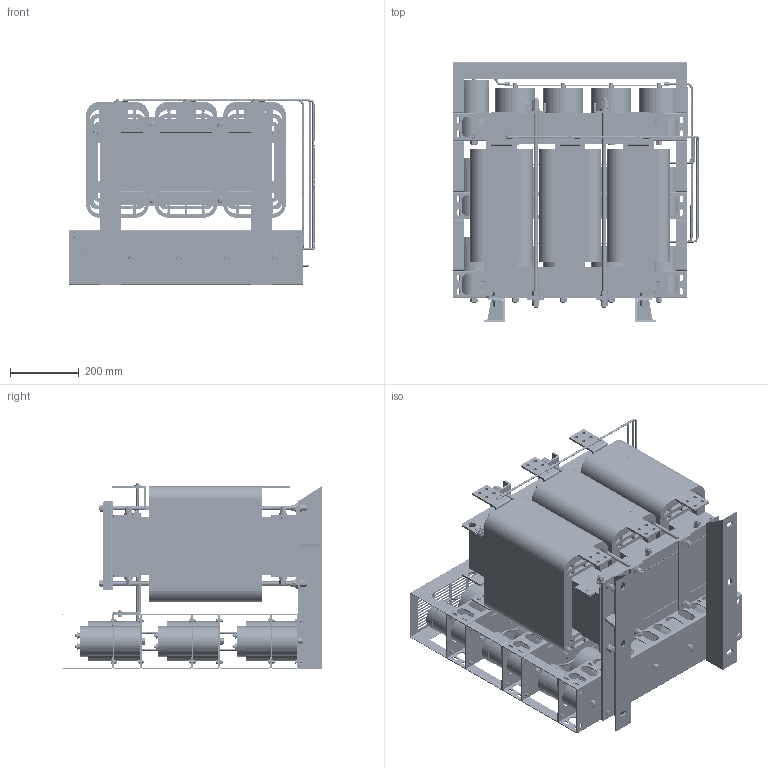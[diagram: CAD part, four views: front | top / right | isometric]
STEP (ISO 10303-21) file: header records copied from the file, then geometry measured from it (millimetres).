
FILE_DESCRIPTION(('STEP AP203'), '1');
FILE_NAME('蔓躅漤铋 耔眢耥 翳朦蝠 _ ISINOF-560_587-6', '', ('UNSPECIFIED'), ('UNSPECIFIED'), 'C3D Converter', 'C3D Toolkit', '');
FILE_SCHEMA(('CONFIG_CONTROL_DESIGN'));
Length unit declared in the file: millimetre
Products named in the file (60): ISINOF-560/587-6; LРНЦ吭X2\04560415\X0\; LРНЦ吭X2\04560415\X0\2; RNB14-6S; UРНС№Мх 60x30x6; 琵X2\04270405041504230422\X0\; 琵X2\04270405041504270443\X0\; 愧X2\0437\X0\琵X2\0410\X0\ іЕМх; №么X2\04270426041C0445\X0\12x10x310; ї琵X2\041E\X0\做зЧУKV223-2P; А降еМх90-540-2; А降еМх琵X2\0436\X0\豹X2\0435\X0\108-90-2; ЖЅ豹X2\043504560415\X0\豹X2\0435\X0\12x30x320; ЖЅ豹X2\043504560415\X0\豹X2\0435\X0\20x40x310; ИэПаМъРѕ490-540-166; ЙПјРјю-560ЎБ80ЎБ6; ПВјРјю-490ЎБ80ЎБ40; ПВјРјю-490ЎБ80ЎБ40 јУЅУ琵X2\042804570427\X0\; ПЯИ¦587A; С№豹X2\0435\X0\; plain washers--product grade c gb_GB_FASTENER_WASHER_SMWC 12; spring lock washers--normal type gb_GB_FASTENER_WASHER_SW 12; hexagon nuts grade c gb_GB_FASTENER_NUT_SNC1 M12-N; M12X225; hexagon head bolts-full thread gb_GB_FASTENER_BOLT_STBAB A M12X35-N; M12x610; 吒X2\0425\X0\116-150; 吒X2\0425\X0\86-175; ДЪДёЕЕ60x6; НвДёЕЕ60x6; 琵X2\04370418042D0451041704270423\X0\; 琵X2\04370418042D0426\X0\吭X2\0458042C\X0\; ФІРНВг跚X2\041B04270423\X0\; Ц吭X2\045604150426\X0\吭X2\0458042C\X0\; Б枯X2\0405042304150415\X0\; plain washers--product grade c gb_GB_FASTENER_WASHER_SMWC 6; hexagon head bolts-full thread gb_GB_FASTENER_BOLT_STBAB A M6X16-N; Cable_1-ХэПТІЁВЛІЁЖчSKS-SF-0587-6AЈЇ05; 琵X2\043704100412\X0\^Cable_1-ХэПТІЁВЛІЁЖчSKS-SF-0587-6AЈЇ05; Cable_4-ХэПТІЁВЛІЁЖчSKS-SF-0587-6AЈЇ05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
Assembly tree (420 placements, depth 3):
  ISINOF-560/587-6
    LРНЦ吭X2\04560415\X0\  x3
    LРНЦ吭X2\04560415\X0\2
    RNB14-6S
    UРНС№Мх 60x30x6  x2
    琵X2\04270405041504230422\X0\
    琵X2\04270405041504270443\X0\
    愧X2\0437\X0\琵X2\0410\X0\ іЕМх  x12
    №么X2\04270426041C0445\X0\12x10x310  x24
    ї琵X2\041E\X0\做зЧУKV223-2P
    А降еМх90-540-2  x6
    А降еМх琵X2\0436\X0\豹X2\0435\X0\108-90-2  x8
    ЖЅ豹X2\043504560415\X0\豹X2\0435\X0\12x30x320  x12
    ЖЅ豹X2\043504560415\X0\豹X2\0435\X0\20x40x310  x6
    ИэПаМъРѕ490-540-166  x2
    ЙПјРјю-560ЎБ80ЎБ6  x2
    ПВјРјю-490ЎБ80ЎБ40
    ПВјРјю-490ЎБ80ЎБ40 јУЅУ琵X2\042804570427\X0\
    ПЯИ¦587A  x3
    С№豹X2\0435\X0\  x2
    plain washers--product grade c gb_GB_FASTENER_WASHER_SMWC 12  x48
    spring lock washers--normal type gb_GB_FASTENER_WASHER_SW 12  x24
    hexagon nuts grade c gb_GB_FASTENER_NUT_SNC1 M12-N  x47
    M12X225  x6
    hexagon head bolts-full thread gb_GB_FASTENER_BOLT_STBAB A M12X35-N  x4
    M12x610  x4
    吒X2\0425\X0\116-150  x12
    吒X2\0425\X0\86-175  x3
    ДЪДёЕЕ60x6  x3
    НвДёЕЕ60x6  x3
    琵X2\04370418042D0451041704270423\X0\
    琵X2\04370418042D0426\X0\吭X2\0458042C\X0\  x3
    ФІРНВг跚X2\041B04270423\X0\  x21
    Ц吭X2\045604150426\X0\吭X2\0458042C\X0\  x4
    Б枯X2\0405042304150415\X0\  x6
    plain washers--product grade c gb_GB_FASTENER_WASHER_SMWC 6  x60
    hexagon head bolts-full thread gb_GB_FASTENER_BOLT_STBAB A M6X16-N  x59
    Cable_1-ХэПТІЁВЛІЁЖчSKS-SF-0587-6AЈЇ05
      琵X2\043704100412\X0\^Cable_1-ХэПТІЁВЛІЁЖчSKS-SF-0587-6AЈЇ05
    Cable_4-ХэПТІЁВЛІЁЖчSKS-SF-0587-6AЈЇ05
      琵X2\043704100412\X0\^Cable_4-ХэПТІЁВЛІЁЖчSKS-SF-0587-6AЈЇ05
    Cable_5-ХэПТІЁВЛІЁЖчSKS-SF-0587-6AЈЇ05
      琵X2\043704100412\X0\^Cable_5-ХэПТІЁВЛІЁЖчSKS-SF-0587-6AЈЇ05
    Cable_6-ХэПТІЁВЛІЁЖчSKS-SF-0587-6AЈЇ05
      琵X2\043704100412\X0\^Cable_6-ХэПТІЁВЛІЁЖчSKS-SF-0587-6AЈЇ05
    Cable_7-ХэПТІЁВЛІЁЖчSKS-SF-0587-6AЈЇ05
      琵X2\043704100412\X0\^Cable_7-ХэПТІЁВЛІЁЖчSKS-SF-0587-6AЈЇ05
    Cable_9-ХэПТІЁВЛІЁЖчSKS-SF-0587-6AЈЇ05
      琵X2\043704100412\X0\^Cable_9-ХэПТІЁВЛІЁЖчSKS-SF-0587-6AЈЇ05
    Cable_10-ХэПТІЁВЛІЁЖчSKS-SF-0587-6AЈЇ05
      琵X2\043704100412\X0\^Cable_10-ХэПТІЁВЛІЁЖчSKS-SF-0587-6AЈЇ05
    Cable_11-ХэПТІЁВЛІЁЖчSKS-SF-0587-6AЈЇ05
      琵X2\043704100412\X0\^Cable_11-ХэПТІЁВЛІЁЖчSKS-SF-0587-6AЈЇ05
    Cable_12-ХэПТІЁВЛІЁЖчSKS-SF-0587-6AЈЇ05
      琵X2\043704100412\X0\^Cable_12-ХэПТІЁВЛІЁЖчSKS-SF-0587-6AЈЇ05
    Cable_13-ХэПТІЁВЛІЁЖчSKS-SF-0587-6AЈЇ05
      琵X2\043704100412\X0\^Cable_13-ХэПТІЁВЛІЁЖчSKS-SF-0587-6AЈЇ05
    L1 L2 L3МщЦЅ
    L1ЎЇ L2Ўｮ L3ЎЇМщЦЅ
    琵X2\0428\X0\崤X2\043A\X0\
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Bounding box: 714.99 x 760 x 544 mm (x, y, z)
Volume: 123384940.2 mm3; surface area: 14058728.8 mm2
Topology: 465 solids, 465 shells, 7067 faces, 16801 edges, 10970 vertices
Faces by surface type: plane 4105, cylinder 2034, cone 655, bspline 243, torus 30
Full cylindrical faces by diameter (mm): 3 x2, 3.8 x2, 4 x4, 6 x157, 6.2 x1, 6.4 x1, 6.6 x60, 8 x33, 9 x2, 9.125 x4, 10.106 x47, 10.675 x21, 11 x50, 12 x89, 12.5 x6, 12.9 x24, 13 x15, 13.5 x48, 14 x80, 16 x24, 19.1 x24, 24 x48, 25 x4, 27.3 x1, 28.5 x1, 30 x1, 63 x6, 75 x6, 86 x6, 90 x6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
Entity records: 102397 total; most frequent: CARTESIAN_POINT 26619, DIRECTION 10671, ORIENTED_EDGE 9658, EDGE_CURVE 4829, AXIS2_PLACEMENT_3D 3775, VERTEX_POINT 3334, LINE 3121, VECTOR 3121
